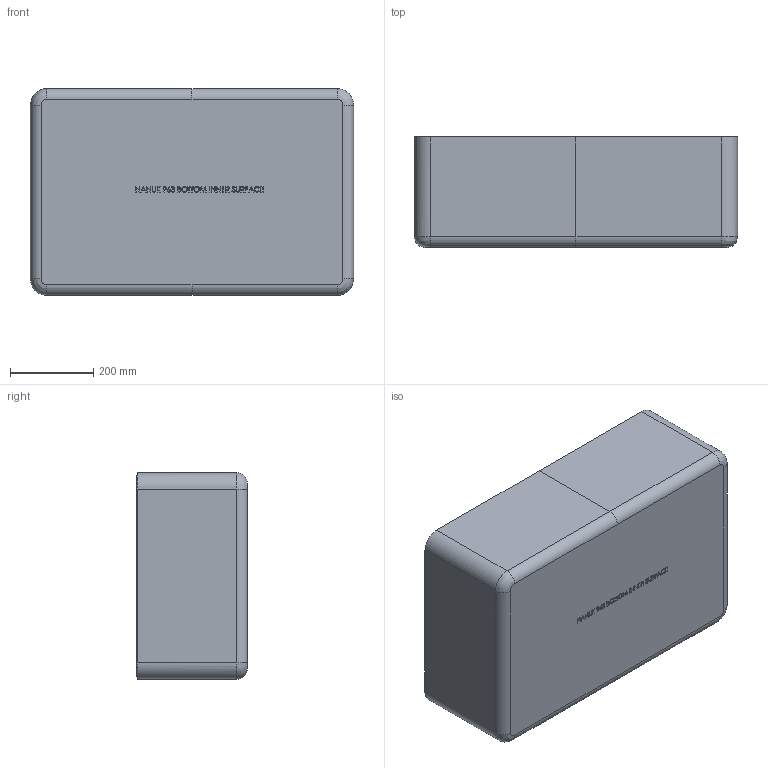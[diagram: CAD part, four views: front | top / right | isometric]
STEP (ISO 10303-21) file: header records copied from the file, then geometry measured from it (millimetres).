
FILE_DESCRIPTION (( 'STEP AP203' ), '1' );
FILE_NAME ('963_Btm_INNER_SURFACE.STEP', '2019-07-23T14:39:21', ( '' ), ( '' ), 'SwSTEP 2.0', 'SolidWorks 2018', '' );
FILE_SCHEMA (( 'CONFIG_CONTROL_DESIGN' ));
Products named in the file (1): 963_Btm_INNER_SURFACE
Bounding box: 775.26 x 265.81 x 495.86 mm (x, y, z)
Volume: 24414432.9 mm3; surface area: 1963019.2 mm2
Topology: 1 solids, 3 shells, 2356 faces, 5838 edges, 3488 vertices
Faces by surface type: bspline 1145, plane 660, cylinder 438, cone 78, torus 25, sphere 10
Entity records: 114782 total; most frequent: CARTESIAN_POINT 68734, ORIENTED_EDGE 11490, DIRECTION 6934, EDGE_CURVE 5745, VERTEX_POINT 3488, EDGE_LOOP 2449, AXIS2_PLACEMENT_3D 2397, ADVANCED_FACE 2356
